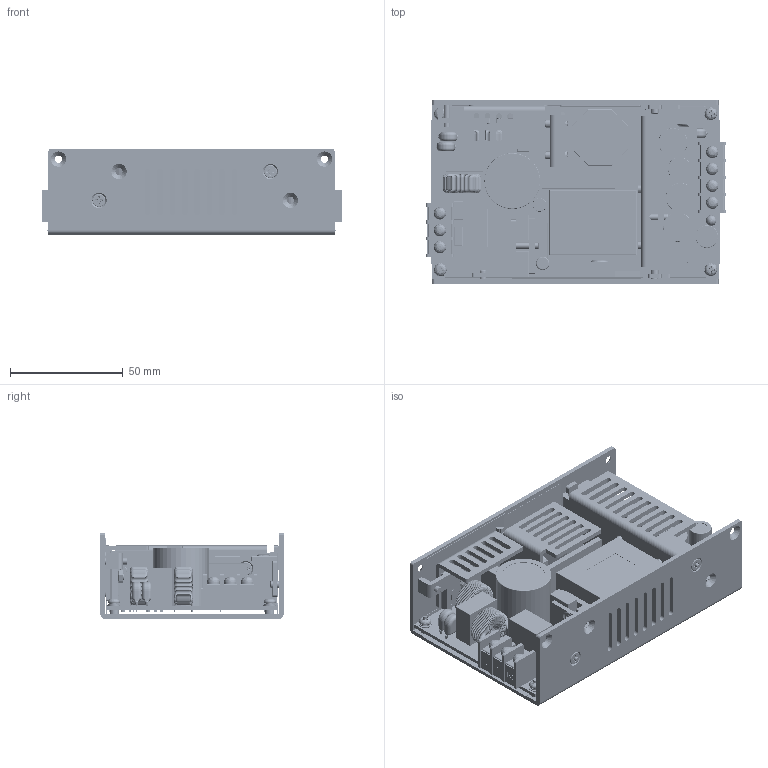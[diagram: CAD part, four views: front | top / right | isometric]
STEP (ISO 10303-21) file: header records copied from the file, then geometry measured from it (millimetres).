
FILE_DESCRIPTION(/* description */ (''),/* implementation_level */ '2;1');
FILE_NAME(/* name */ 'D:\Inventor\3D Files\200508\AQF120U.stp',/* time_stamp */ '2020-04-23T16:18:12+08:00',/* author */ ('peter'),/* organization */ (''),/* preprocessor_version */ 'ST-DEVELOPER v15.2',/* originating_system */ 'Autodesk Inventor 2014',/* authorisation */ '');
FILE_SCHEMA (('AUTOMOTIVE_DESIGN { 1 0 10303 214 3 1 1 }'));
Products named in the file (47): BOT CASE; M3 - 4mm; M3 - 2mm; PCB; X3 HEATSINK; INSULATOR TO-220; I HEATSINK; SCREW PH M3_12 mm; X2 HEATSINK; SCREW PH M3_10 mm; X1 HEATSINK; TO-220FP; TO-220FP_1; SCREW CH_W  M3_8mm; BD1; SCREW PH M3_8mm; M3; VR; INLET 9 mm; INLET 9 mm_1; INLET 9 mm_2; INLET - IN; INLET 9 mm_3; INLET 9 mm_4; INLET 9 mm_5; INLET 9 mm_6; INLET - OUT; LED; L1; L1_1; Y -- C; Y -- C_1; Y -- C_2; Y -- C_3; Y -- C_4; LABEL - 24S; MYLAR - CASE 1; P100 _ 50 X 35 mm; SCREW PH M3_6mm; THREADED CLIP Max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
Bounding box: 133.4 x 81.4 x 38.1 mm (x, y, z)
Volume: 161575.4 mm3; surface area: 154727.5 mm2
Topology: 76 solids, 250 shells, 8097 faces, 16173 edges, 8408 vertices
Faces by surface type: cylinder 3037, torus 2898, plane 1736, bspline 281, cone 128, sphere 17
Full cylindrical faces by diameter (mm): 0.45 x3, 0.5 x1, 0.6 x16, 1.85 x2, 2.459 x23, 3 x14, 3.1 x6, 3.2 x22, 3.5 x7, 4 x11, 4.1 x11, 4.219 x1, 4.7 x1, 5.5 x7, 5.8 x14, 6 x1, 6.129 x1, 6.353 x1, 8.825 x1, 8.853 x1, 9.476 x1, 10.037 x1, 10.297 x1, 12.809 x2, 12.995 x1, 19.003 x1, 24.791 x1
Entity records: 210415 total; most frequent: CARTESIAN_POINT 53103, DIRECTION 35572, ORIENTED_EDGE 32054, AXIS2_PLACEMENT_3D 15489, EDGE_CURVE 14630, EDGE_LOOP 8045, ADVANCED_FACE 7566, FACE_OUTER_BOUND 7493
